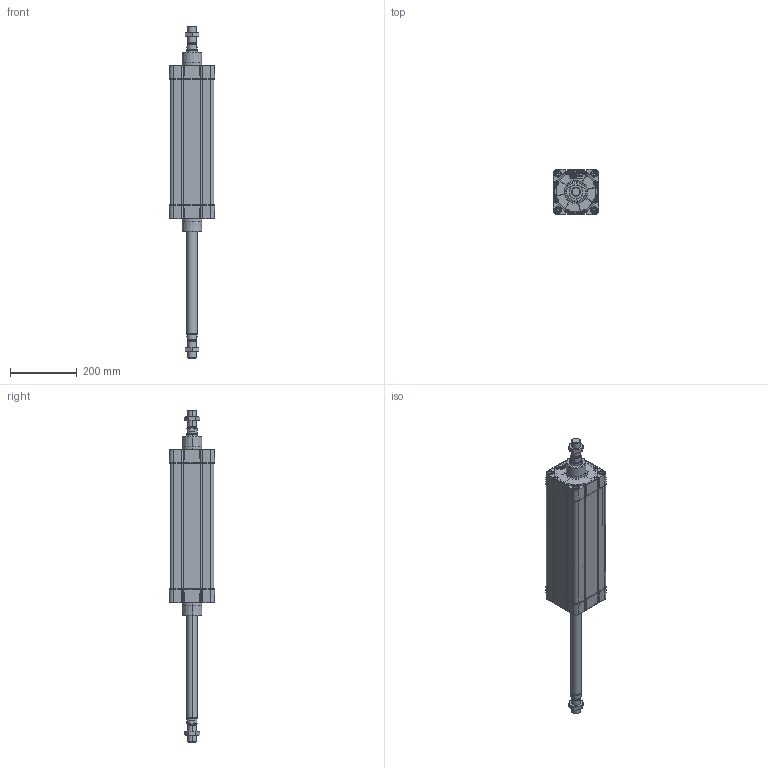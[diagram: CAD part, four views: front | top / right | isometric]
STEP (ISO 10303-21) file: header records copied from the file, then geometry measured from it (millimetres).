
FILE_DESCRIPTION (( 'STEP AP214' ), '1' );
FILE_NAME ('N11M41250300.STEP', '2021-09-28T14:26:54', ( '' ), ( '' ), 'SwSTEP 2.0', 'SolidWorks 2016', '' );
FILE_SCHEMA (( 'AUTOMOTIVE_DESIGN' ));
Length unit declared in the file: millimetre
Products named in the file (7): 21.G01.0000_21.G01.0300; N11M41250300; 21.G03.0000_21.G03.0300; TA Ø125 ISO 15552 WEB; 21.754.0; Pistone Ø125 ISO 15552; 000.516.7_000.516.0300
Assembly tree (8 placements, depth 2):
  N11M41250300
    TA Ø125 ISO 15552 WEB  x2
    000.516.7_000.516.0300
    21.754.0  x2
    21.G01.0000_21.G01.0300
    21.G03.0000_21.G03.0300
    Pistone Ø125 ISO 15552
Bounding box: 135.91 x 135.95 x 998 mm (x, y, z)
Volume: 3700270.8 mm3; surface area: 1113679.5 mm2
Topology: 20 solids, 24 shells, 2642 faces, 6784 edges, 4237 vertices
Faces by surface type: plane 1046, cylinder 722, bspline 400, cone 342, torus 102, sphere 30
Entity records: 65467 total; most frequent: CARTESIAN_POINT 17890, ORIENTED_EDGE 7490, DIRECTION 6921, EDGE_CURVE 3745, AXIS2_PLACEMENT_3D 2492, VERTEX_POINT 2369, VECTOR 1937, LINE 1937
